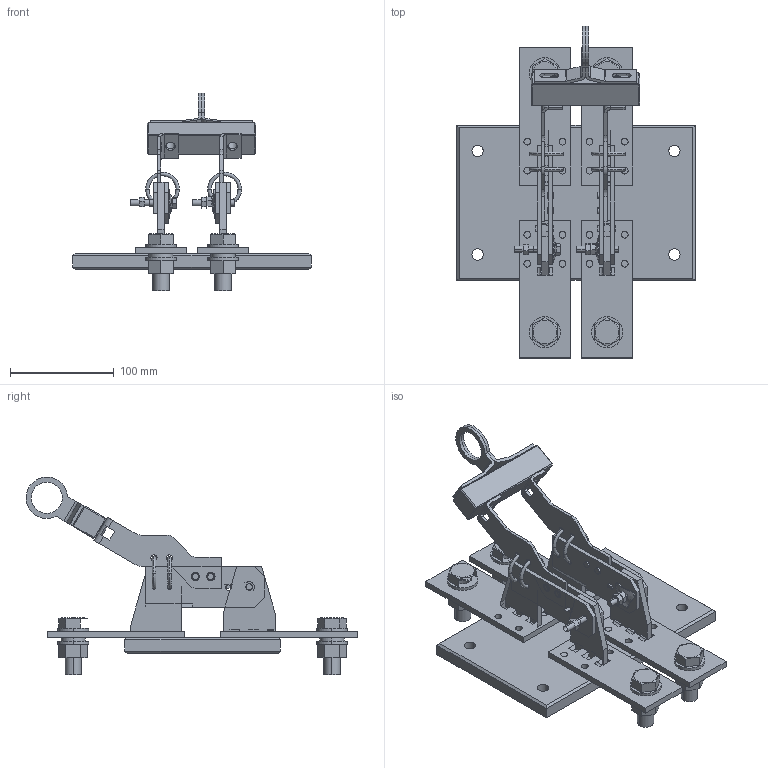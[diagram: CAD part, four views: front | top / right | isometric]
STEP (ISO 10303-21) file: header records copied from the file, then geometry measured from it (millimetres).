
FILE_DESCRIPTION (( 'STEP AP214' ), '1' );
FILE_NAME ('Ðàçúåäèíèòåëü ÐÅ19-44-11160-2000À-ÓÕË3-ÊÝÀÇ.STEP', '2023-08-22T07:18:21', ( '' ), ( '' ), 'SwSTEP 2.0', 'SolidWorks 2018', '' );
FILE_SCHEMA (( 'AUTOMOTIVE_DESIGN' ));
Length unit declared in the file: millimetre
Products named in the file (1): Ðàçúåäèíèòåëü ÐÅ19-44-11160-2000À-ÓÕË3-ÊÝÀÇ
Bounding box: 230 x 320.44 x 191.08 mm (x, y, z)
Surface area: 240544.3 mm2 (no closed solid volume)
Topology: 0 solids, 62 shells, 473 faces, 1631 edges, 1198 vertices
Faces by surface type: plane 264, cylinder 145, cone 32, torus 28, sphere 4
Entity records: 24087 total; most frequent: CARTESIAN_POINT 4785, DIRECTION 2948, ORIENTED_EDGE 2533, EDGE_CURVE 1625, VERTEX_POINT 1198, AXIS2_PLACEMENT_3D 1035, LINE 878, VECTOR 878
